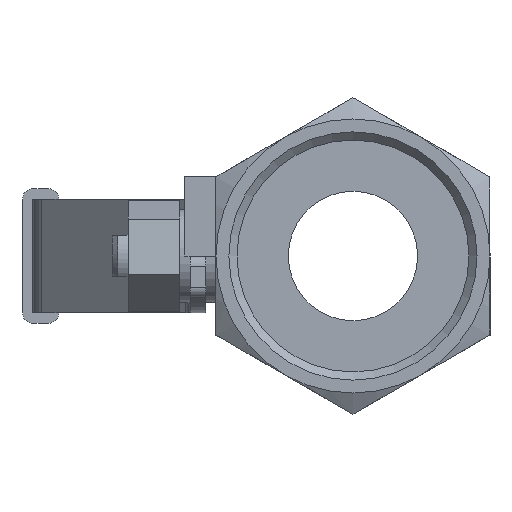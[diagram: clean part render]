
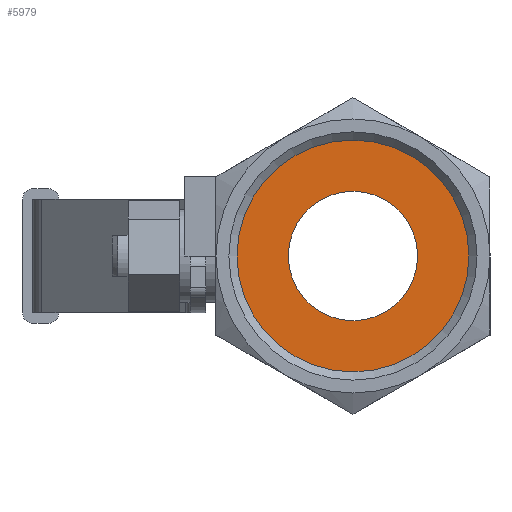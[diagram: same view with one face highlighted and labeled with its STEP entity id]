
A CAD part, left-side view. The second image highlights one B-rep face of the part: STEP entity #5979.
In plain terms, the highlighted planar face has unit normal (-1, 0, 0).
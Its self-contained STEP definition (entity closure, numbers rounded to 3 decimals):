
#114=FACE_BOUND('',#747,.T.);
#150=PLANE('',#6338);
#417=FACE_OUTER_BOUND('',#746,.T.);
#746=EDGE_LOOP('',(#3925));
#747=EDGE_LOOP('',(#3926));
#2379=CIRCLE('',#6325,12.5);
#2386=CIRCLE('',#6337,22.423);
#2505=VERTEX_POINT('',#8289);
#2512=VERTEX_POINT('',#8312);
#3057=EDGE_CURVE('',#2505,#2505,#2379,.T.);
#3068=EDGE_CURVE('',#2512,#2512,#2386,.T.);
#3925=ORIENTED_EDGE('',*,*,#3068,.T.);
#3926=ORIENTED_EDGE('',*,*,#3057,.T.);
#5979=ADVANCED_FACE('',(#417,#114),#150,.T.);
#6325=AXIS2_PLACEMENT_3D('',#8290,#6769,#6770);
#6337=AXIS2_PLACEMENT_3D('',#8313,#6797,#6798);
#6338=AXIS2_PLACEMENT_3D('',#8315,#6800,#6801);
#6769=DIRECTION('center_axis',(1.,0.,0.));
#6770=DIRECTION('ref_axis',(0.,0.,-1.));
#6797=DIRECTION('center_axis',(-1.,0.,0.));
#6798=DIRECTION('ref_axis',(0.,0.,
1.));
#6800=DIRECTION('center_axis',(-1.,0.,0.));
#6801=DIRECTION('ref_axis',(0.,0.,
1.));
#8289=CARTESIAN_POINT('',(-93.942,-3.804,12.5));
#8290=CARTESIAN_POINT('Origin',(-93.942,-3.804,0.));
#8312=CARTESIAN_POINT('',(-93.942,-3.804,-22.423));
#8313=CARTESIAN_POINT('Origin',(-93.942,-3.804,0.));
#8315=CARTESIAN_POINT('Origin',(-93.942,-3.804,0.));
